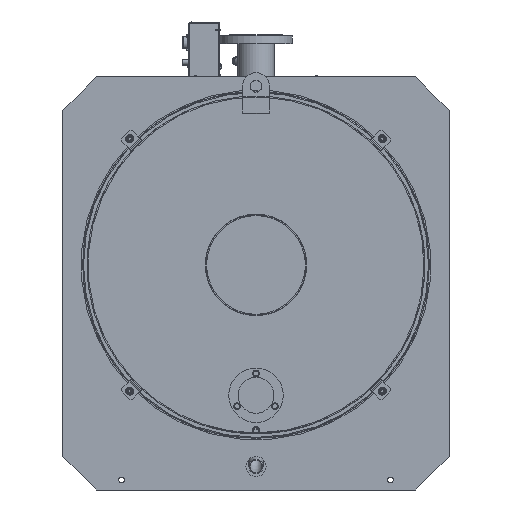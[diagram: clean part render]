
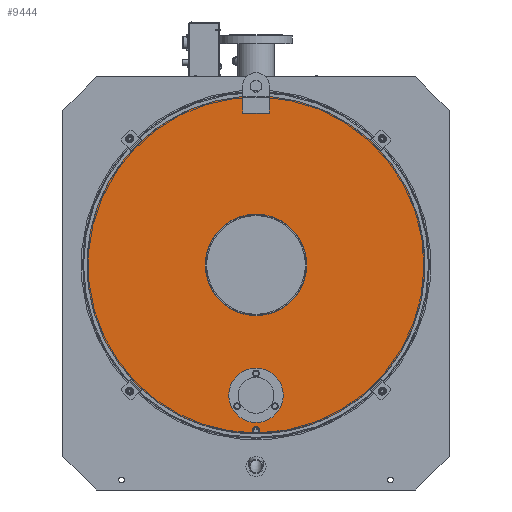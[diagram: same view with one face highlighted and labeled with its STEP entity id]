
A CAD part, left-side view. The second image highlights one B-rep face of the part: STEP entity #9444.
In plain terms, the highlighted planar face has unit normal (-1, 0, 0).
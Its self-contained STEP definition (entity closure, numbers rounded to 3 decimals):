
#9444=ADVANCED_FACE('',(#40739,#40741,#40743),#40745,.T.);
#40739=FACE_BOUND('',#40740,.T.);
#40740=EDGE_LOOP('',(#95437,#95438,#95439,#95440,#95441,#95442,#95443,#95444,#95445));
#40741=FACE_BOUND('',#40742,.T.);
#40742=EDGE_LOOP('',(#95446));
#40743=FACE_BOUND('',#40744,.T.);
#40744=EDGE_LOOP('',(#95447));
#40745=PLANE('',#40746);
#40746=AXIS2_PLACEMENT_3D('',#40747,#40748,#40749);
#40747=CARTESIAN_POINT('',(-2071.,0.,0.));
#40748=DIRECTION('',(-1.,0.,0.));
#40749=DIRECTION('',(0.,-1.,0.));
#95437=ORIENTED_EDGE('',*,*,#109048,.F.);
#95438=ORIENTED_EDGE('',*,*,#109049,.F.);
#95439=ORIENTED_EDGE('',*,*,#109050,.F.);
#95440=ORIENTED_EDGE('',*,*,#109028,.T.);
#95441=ORIENTED_EDGE('',*,*,#109027,.T.);
#95442=ORIENTED_EDGE('',*,*,#109051,.T.);
#95443=ORIENTED_EDGE('',*,*,#109052,.T.);
#95444=ORIENTED_EDGE('',*,*,#109053,.T.);
#95445=ORIENTED_EDGE('',*,*,#109030,.T.);
#95446=ORIENTED_EDGE('',*,*,#109054,.T.);
#95447=ORIENTED_EDGE('',*,*,#109055,.F.);
#109027=EDGE_CURVE('',#118503,#118501,#118504,.T.);
#109028=EDGE_CURVE('',#118505,#118503,#118506,.T.);
#109030=EDGE_CURVE('',#118509,#118507,#118510,.T.);
#109048=EDGE_CURVE('',#118541,#118507,#118542,.T.);
#109049=EDGE_CURVE('',#118543,#118541,#118544,.T.);
#109050=EDGE_CURVE('',#118505,#118543,#118545,.T.);
#109051=EDGE_CURVE('',#118501,#118546,#118547,.F.);
#109052=EDGE_CURVE('',#118546,#118548,#118549,.F.);
#109053=EDGE_CURVE('',#118548,#118509,#118550,.F.);
#109054=EDGE_CURVE('',#118551,#118551,#118552,.F.);
#109055=EDGE_CURVE('',#118553,#118553,#118554,.T.);
#118501=VERTEX_POINT('',#143598);
#118503=VERTEX_POINT('',#143602);
#118504=CIRCLE('',#143603,503.);
#118505=VERTEX_POINT('',#143607);
#118506=CIRCLE('',#143608,503.);
#118507=VERTEX_POINT('',#143612);
#118509=VERTEX_POINT('',#143617);
#118510=CIRCLE('',#143618,503.);
#118541=VERTEX_POINT('',#143700);
#118542=LINE('',#143701,#143702);
#118543=VERTEX_POINT('',#143704);
#118544=LINE('',#143705,#143706);
#118545=LINE('',#143708,#143709);
#118546=VERTEX_POINT('',#143711);
#118547=LINE('',#143712,#143713);
#118548=VERTEX_POINT('',#143715);
#118549=CIRCLE('',#143716,11.);
#118550=LINE('',#143720,#143721);
#118551=VERTEX_POINT('',#143723);
#118552=CIRCLE('',#143724,151.);
#118553=VERTEX_POINT('',#143728);
#118554=CIRCLE('',#143729,81.);
#143598=CARTESIAN_POINT('',(-2071.,4.583,-502.979));
#143602=CARTESIAN_POINT('',(-2071.,355.407,-355.942));
#143603=AXIS2_PLACEMENT_3D('',#143604,#143605,#143606);
#143604=CARTESIAN_POINT('',(-2071.,0.,0.));
#143605=DIRECTION('',(-1.,0.,0.));
#143606=DIRECTION('',(0.,0.707,-0.708));
#143607=CARTESIAN_POINT('',(-2071.,40.,501.407));
#143608=AXIS2_PLACEMENT_3D('',#143609,#143610,#143611);
#143609=CARTESIAN_POINT('',(-2071.,0.,0.));
#143610=DIRECTION('',(-1.,0.,0.));
#143611=DIRECTION('',(0.,0.08,0.997));
#143612=CARTESIAN_POINT('',(-2071.,-40.,501.407));
#143617=CARTESIAN_POINT('',(-2071.,-4.583,-502.979));
#143618=AXIS2_PLACEMENT_3D('',#143619,#143620,#143621);
#143619=CARTESIAN_POINT('',(-2071.,0.,0.));
#143620=DIRECTION('',(-1.,0.,0.));
#143621=DIRECTION('',(0.,-0.009,-1.));
#143700=CARTESIAN_POINT('',(-2071.,-40.,452.));
#143701=CARTESIAN_POINT('',(-2071.,-40.,452.));
#143702=VECTOR('',#143703,1.);
#143703=DIRECTION('',(0.,0.,1.));
#143704=CARTESIAN_POINT('',(-2071.,40.,452.));
#143705=CARTESIAN_POINT('',(-2071.,40.,452.));
#143706=VECTOR('',#143707,1.);
#143707=DIRECTION('',(0.,-1.,0.));
#143708=CARTESIAN_POINT('',(-2071.,40.,501.407));
#143709=VECTOR('',#143710,1.);
#143710=DIRECTION('',(0.,0.,-1.));
#143711=CARTESIAN_POINT('',(-2071.,4.583,-502.));
#143712=CARTESIAN_POINT('',(-2071.,4.583,-502.));
#143713=VECTOR('',#143714,1.);
#143714=DIRECTION('',(0.,0.,-1.));
#143715=CARTESIAN_POINT('',(-2071.,-4.583,-502.));
#143716=AXIS2_PLACEMENT_3D('',#143717,#143718,#143719);
#143717=CARTESIAN_POINT('',(-2071.,0.,-492.));
#143718=DIRECTION('',(-1.,0.,0.));
#143719=DIRECTION('',(0.,-0.417,-0.909));
#143720=CARTESIAN_POINT('',(-2071.,-4.583,-502.979));
#143721=VECTOR('',#143722,1.);
#143722=DIRECTION('',(0.,0.,1.));
#143723=CARTESIAN_POINT('',(-2071.,-151.,0.));
#143724=AXIS2_PLACEMENT_3D('',#143725,#143726,#143727);
#143725=CARTESIAN_POINT('',(-2071.,0.,0.));
#143726=DIRECTION('',(-1.,0.,0.));
#143727=DIRECTION('',(0.,-1.,0.));
#143728=CARTESIAN_POINT('',(-2071.,-81.,-388.));
#143729=AXIS2_PLACEMENT_3D('',#143730,#143731,#143732);
#143730=CARTESIAN_POINT('',(-2071.,0.,-388.));
#143731=DIRECTION('',(-1.,0.,0.));
#143732=DIRECTION('',(0.,-1.,0.));
